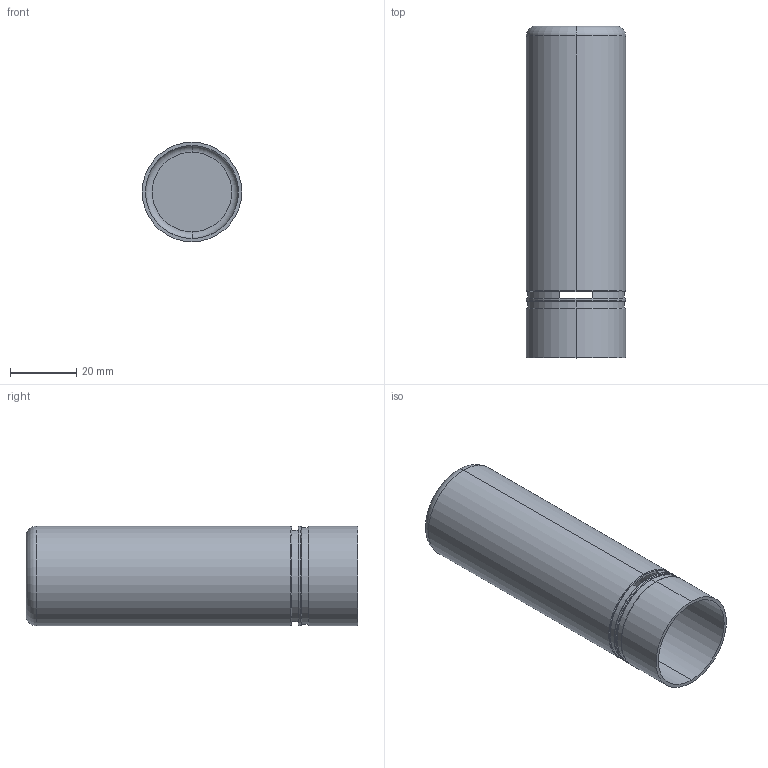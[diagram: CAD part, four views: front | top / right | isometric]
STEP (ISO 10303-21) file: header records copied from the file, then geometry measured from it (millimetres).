
FILE_DESCRIPTION (( 'STEP AP214' ), '1' );
FILE_NAME ('ñîåäèíèòåëü100.STEP', '2025-02-25T12:13:14', ( '' ), ( '' ), 'SwSTEP 2.0', 'SolidWorks 2023', '' );
FILE_SCHEMA (( 'AUTOMOTIVE_DESIGN' ));
Length unit declared in the file: millimetre
Products named in the file (1): соединитель100
Bounding box: 30 x 100 x 30 mm (x, y, z)
Volume: 9449 mm3; surface area: 19398.6 mm2
Topology: 1 solids, 1 shells, 35 faces, 84 edges, 52 vertices
Faces by surface type: torus 12, cylinder 12, plane 11
Entity records: 1069 total; most frequent: DIRECTION 212, CARTESIAN_POINT 172, ORIENTED_EDGE 168, AXIS2_PLACEMENT_3D 92, EDGE_CURVE 84, CIRCLE 56, VERTEX_POINT 52, EDGE_LOOP 40
